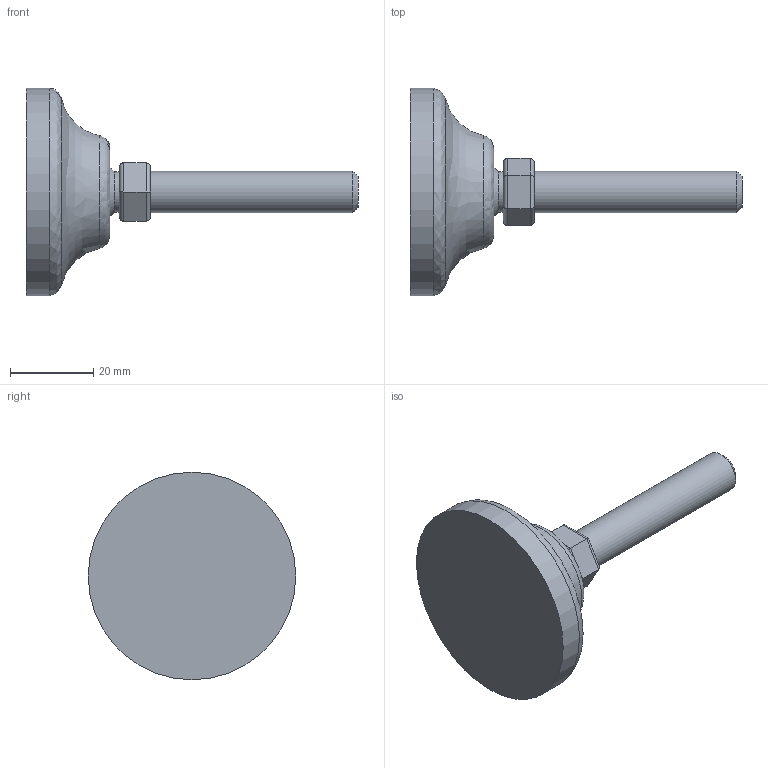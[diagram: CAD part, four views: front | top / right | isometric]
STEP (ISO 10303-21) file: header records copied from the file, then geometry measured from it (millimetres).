
FILE_DESCRIPTION(('STEP AP203'),'2;1');
FILE_NAME('10020.stp','2015-07-01T14:20:30',(''),(''),'2008.1.107','THINKDESIGN','');
FILE_SCHEMA(('CONFIG_CONTROL_DESIGN'));
Length unit declared in the file: millimetre
Bounding box: 80 x 50 x 50 mm (x, y, z)
Volume: 30870.6 mm3; surface area: 8256.5 mm2
Topology: 4 solids, 4 shells, 34 faces, 72 edges, 46 vertices
Faces by surface type: cylinder 15, plane 14, bspline 5
Full cylindrical faces by diameter (mm): 9.747 x1, 10 x1, 50 x1
Entity records: 1225 total; most frequent: CARTESIAN_POINT 419, DIRECTION 144, ORIENTED_EDGE 144, EDGE_CURVE 72, AXIS2_PLACEMENT_3D 55, VERTEX_POINT 46, EDGE_LOOP 34, FACE_OUTER_BOUND 34
